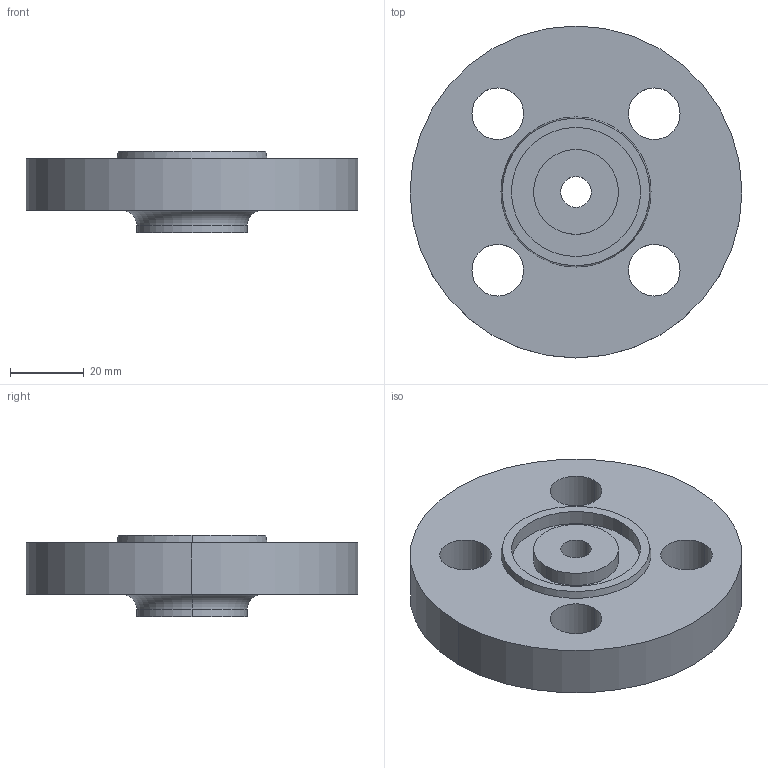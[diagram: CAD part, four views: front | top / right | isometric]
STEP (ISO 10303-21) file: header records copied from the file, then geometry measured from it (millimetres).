
FILE_DESCRIPTION (( 'STEP AP214' ), '1' );
FILE_NAME ('PN40 DN10 Type 13 - Type D Face.STEP', '2018-12-29T03:58:17', ( '' ), ( '' ), 'SwSTEP 2.0', 'SolidWorks 2019', '' );
FILE_SCHEMA (( 'AUTOMOTIVE_DESIGN' ));
Length unit declared in the file: millimetre
Products named in the file (1): PN40 DN10 Type 13 - Type D Face
Bounding box: 90 x 90 x 22 mm (x, y, z)
Volume: 84186.7 mm3; surface area: 19734.5 mm2
Topology: 1 solids, 1 shells, 28 faces, 64 edges, 42 vertices
Faces by surface type: cylinder 18, plane 6, torus 2, cone 2
Entity records: 870 total; most frequent: DIRECTION 166, CARTESIAN_POINT 135, ORIENTED_EDGE 128, AXIS2_PLACEMENT_3D 73, EDGE_CURVE 64, CIRCLE 44, VERTEX_POINT 42, EDGE_LOOP 42
